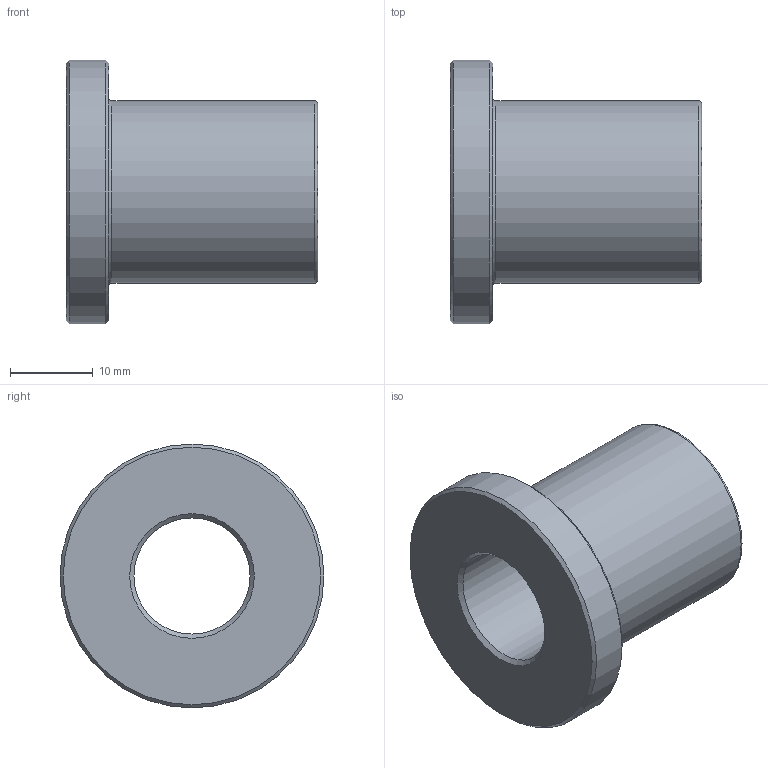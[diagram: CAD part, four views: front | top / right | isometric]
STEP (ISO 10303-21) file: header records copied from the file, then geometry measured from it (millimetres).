
FILE_DESCRIPTION( ( 'STEP AP214' ), '1' );
FILE_NAME( 'p:/temp/worker_32/temp/app_57_02019012316312432555246192d056f_000000_00_00_000000/format_0/M4XLPWBC.stp', '2019-01-23T15:31:25', ( '' ), ( '' ), ' ', 'PARTsolutions', ' ' );
FILE_SCHEMA( ( 'AUTOMOTIVE_DESIGN { 1 0 10303 214 1 1 1 1 }' ) );
Length unit declared in the file: inch
Products named in the file (1): _M4XLPWBC
Bounding box: 30.3 x 31.8 x 31.8 mm (x, y, z)
Volume: 8931.2 mm3; surface area: 4769.8 mm2
Topology: 1 solids, 1 shells, 12 faces, 21 edges, 12 vertices
Faces by surface type: cone 4, plane 3, cylinder 3, torus 2
Full cylindrical faces by diameter (mm): 14 x1, 21.99 x1, 31.8 x1
Entity records: 360 total; most frequent: DIRECTION 50, CARTESIAN_POINT 37, AXIS2_PLACEMENT_3D 25, EDGE_LOOP 24, ORIENTED_EDGE 24, FACE_OUTER_BOUND 17, STYLED_ITEM 12, PRESENTATION_STYLE_ASSIGNMENT 12
